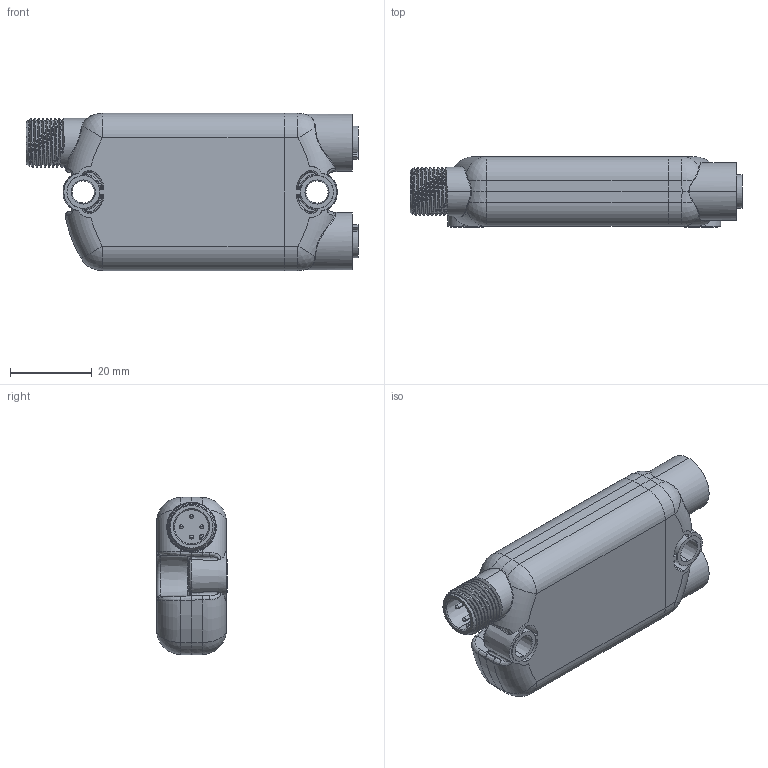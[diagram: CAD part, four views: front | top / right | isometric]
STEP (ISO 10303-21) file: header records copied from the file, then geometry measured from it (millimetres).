
FILE_DESCRIPTION((''),'2;1');
FILE_NAME('SMART-TAP-ASSEMBLY-B_ASM','2016-04-05T',('rssantos'),('Rockwell Automation'),'PRO/ENGINEER BY PARAMETRIC TECHNOLOGY CORPORATION, 2012480','PRO/ENGINEER BY PARAMETRIC TECHNOLOGY CORPORATION, 2012480','');
FILE_SCHEMA(('CONFIG_CONTROL_DESIGN'));
Length unit declared in the file: millimetre
Products named in the file (14): HOUSING-J1_AF0; MICRO-INSERT_AF0; 75019-015_AF0; 75019-015_AF1; 75019-015_AF2; 75019-015; PCB; DAUGHTER-BOARD-B; END-CAP-J2-J3B_AF1; GRAPHIC-OVERLAY_AF1; 1MM-FEMALE-SOCKET; 75026-189_AF0; 75026-189_AF1; SMART-TAP-ASSEMBLY-B_ASM
Assembly tree (21 placements, depth 2):
  SMART-TAP-ASSEMBLY-B_ASM
    HOUSING-J1_AF0
    MICRO-INSERT_AF0
    75019-015_AF0
    75019-015_AF1
    75019-015_AF2
    75019-015
    PCB
    DAUGHTER-BOARD-B
    END-CAP-J2-J3B_AF1
    GRAPHIC-OVERLAY_AF1
    1MM-FEMALE-SOCKET  x9
    75026-189_AF0
    75026-189_AF1
Bounding box: 81 x 17.25 x 38.5 mm (x, y, z)
Volume: 18248.8 mm3; surface area: 25812.2 mm2
Topology: 25 solids, 25 shells, 3214 faces, 8318 edges, 5279 vertices
Faces by surface type: plane 1915, cylinder 446, bspline 401, cone 233, torus 158, sphere 41, extrusion 20
Entity records: 93905 total; most frequent: CARTESIAN_POINT 33322, ORIENTED_EDGE 13116, DIRECTION 11535, EDGE_CURVE 6558, VECTOR 4803, LINE 4799, VERTEX_POINT 4207, AXIS2_PLACEMENT_3D 3366
